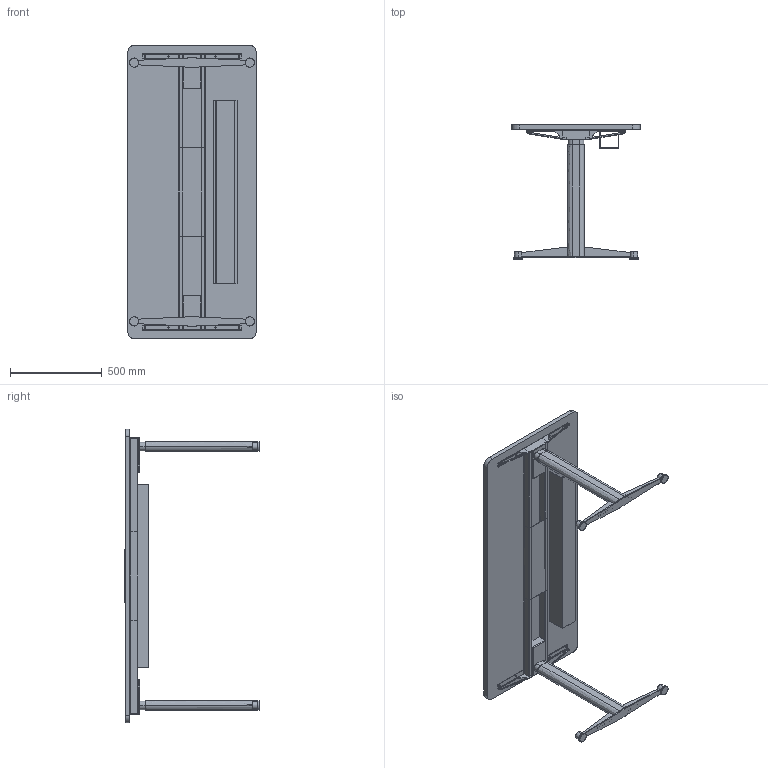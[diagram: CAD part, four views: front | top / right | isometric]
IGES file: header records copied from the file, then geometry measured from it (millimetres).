
Start section: SolidWorks IGES file using analytic representation for surfaces
Global section: file name: C:\Users\simone.cerana\OneDrive - Gruppo Tecno\Desktop\CHINA\DISEGNI DI SERIE\ASSIEMI LISTINO\AXIS LISTINO\FULL OPT\AX1607FO.IGS; native system: SolidWorks 2024; preprocessor: SolidWorks 2024; author: simone.cerana; date: 260512.111552; units: millimetre
Bounding box: 700 x 730.14 x 1600 mm (x, y, z)
Surface area: 4083003.4 mm2 (no closed solid volume)
Topology: 0 solids, 0 shells, 330 faces, 4480 edges, 4476 vertices
Faces by surface type: bspline 194, revolution 136
